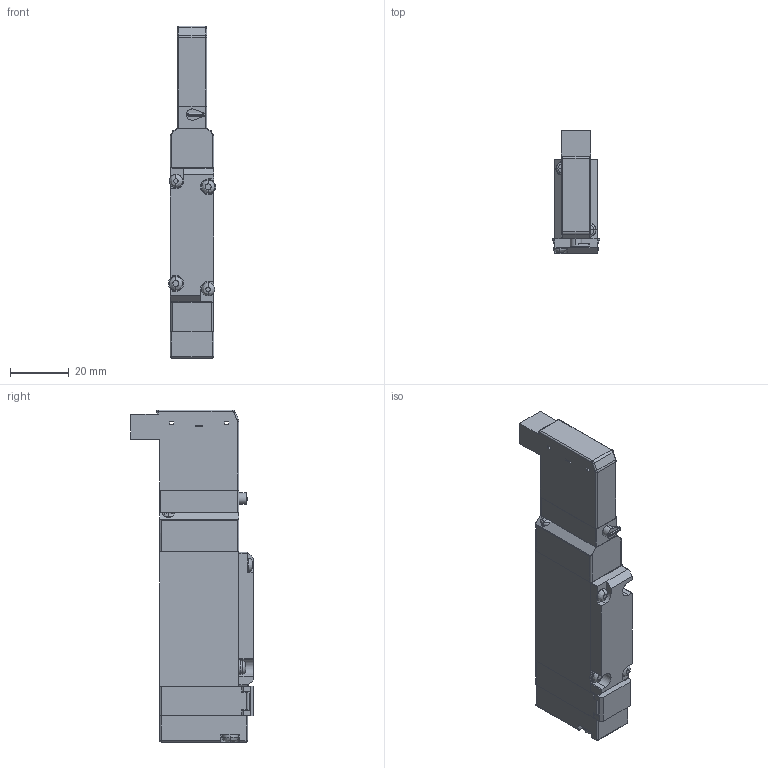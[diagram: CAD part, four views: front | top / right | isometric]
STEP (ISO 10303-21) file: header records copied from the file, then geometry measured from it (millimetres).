
FILE_DESCRIPTION( (''), '2;1');
FILE_NAME ('CVICAD02.3360.F15T1-R-A1_21566.stp','2021-07-12T19:13:12',(''),(''),'spGate 12.6.6','','');
FILE_SCHEMA (('AUTOMOTIVE_DESIGN'));
Length unit declared in the file: millimetre
Products named in the file (8): Assembly; CVICAD02-prt0; CVICAD02-prt1; CVICAD02-prt2; CVICAD02-prt3; CVICAD02-prt4; CVICAD02-prt5; CVICAD02-prt6
Assembly tree (7 placements, depth 2):
  Assembly
    CVICAD02-prt0
    CVICAD02-prt1
    CVICAD02-prt2
    CVICAD02-prt3
    CVICAD02-prt4
    CVICAD02-prt5
    CVICAD02-prt6
Bounding box: 16.2 x 42 x 113.5 mm (x, y, z)
Volume: 45408.8 mm3; surface area: 17373.1 mm2
Topology: 7 solids, 7 shells, 328 faces, 850 edges, 537 vertices
Faces by surface type: plane 184, cylinder 111, bspline 24, sphere 9
Entity records: 17154 total; most frequent: CARTESIAN_POINT 2406, ORIENTED_EDGE 1674, DIRECTION 1581, COLOUR_RGB 1172, PRESENTATION_STYLE_ASSIGNMENT 1172, STYLED_ITEM 1172, EDGE_CURVE 837, DRAUGHTING_PRE_DEFINED_CURVE_FONT 837
